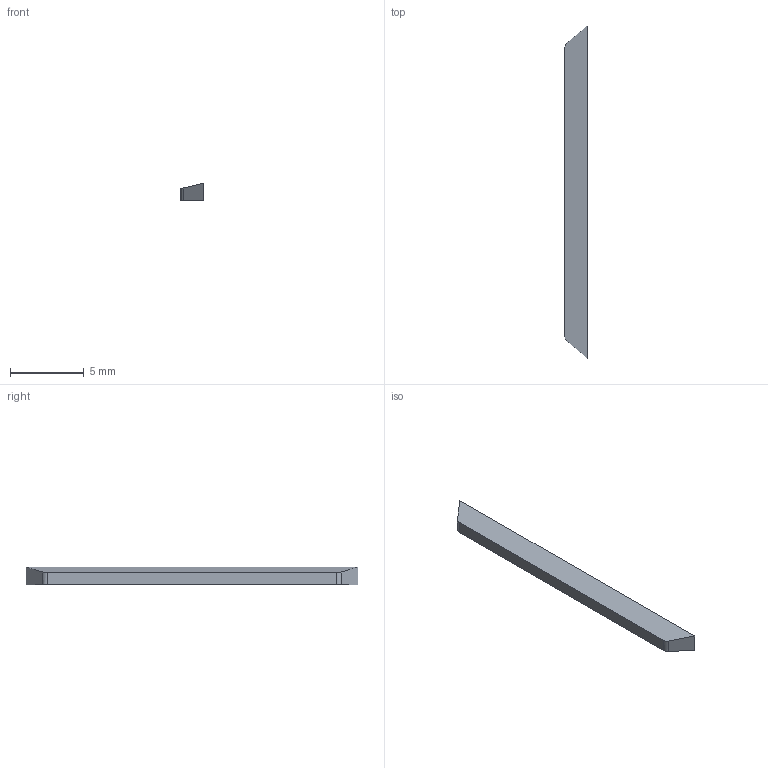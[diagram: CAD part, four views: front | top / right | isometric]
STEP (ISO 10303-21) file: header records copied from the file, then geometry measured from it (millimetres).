
FILE_DESCRIPTION(('Open CASCADE Model'),'2;1');
FILE_NAME('Open CASCADE Shape Model','2026-10-15T18:27:22',('Author'),( 'Open CASCADE'),'Open CASCADE STEP processor 7.9','Open CASCADE 7.9' ,'Unknown');
FILE_SCHEMA(('AUTOMOTIVE_DESIGN { 1 0 10303 214 1 1 1 1 }'));
Length unit declared in the file: millimetre
Products named in the file (1): Open CASCADE STEP translator 7.9 14
Bounding box: 1.5 x 22.52 x 1.18 mm (x, y, z)
Volume: 32.3 mm3; surface area: 111.8 mm2
Topology: 1 solids, 1 shells, 8 faces, 18 edges, 12 vertices
Faces by surface type: plane 6, cylinder 2
Entity records: 465 total; most frequent: CARTESIAN_POINT 105, DIRECTION 59, ORIENTED_EDGE 36, PCURVE 36, DEFINITIONAL_REPRESENTATION 36, LINE 30, VECTOR 30, EDGE_CURVE 18
